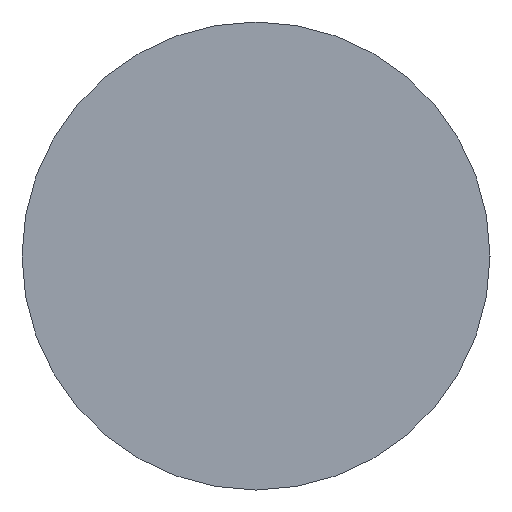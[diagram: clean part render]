
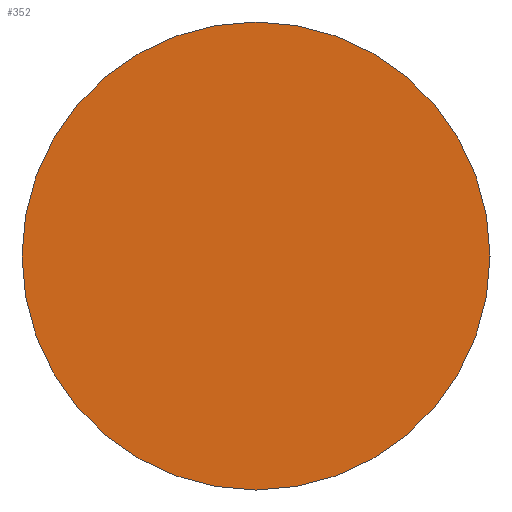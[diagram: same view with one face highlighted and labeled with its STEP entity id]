
A CAD part, left-side view. The second image highlights one B-rep face of the part: STEP entity #352.
In plain terms, the highlighted planar face has unit normal (-1, 0, 0).
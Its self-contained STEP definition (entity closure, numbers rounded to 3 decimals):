
#26 = EDGE_LOOP ( 'NONE', ( #127, #355 ) ) ;
#34 = VERTEX_POINT ( 'NONE', #178 ) ;
#48 = EDGE_CURVE ( 'NONE', #34, #351, #228, .T. ) ;
#72 = CARTESIAN_POINT ( 'NONE',  ( 0., 0., -25. ) ) ;
#80 = FACE_OUTER_BOUND ( 'NONE', #26, .T. ) ;
#81 = PLANE ( 'NONE',  #82 ) ;
#82 = AXIS2_PLACEMENT_3D ( 'NONE', #83, #84, #85 ) ;
#83 = CARTESIAN_POINT ( 'NONE',  ( 0., 0., 0. ) ) ;
#84 = DIRECTION ( 'NONE',  ( 1., 0., 0. ) ) ;
#85 = DIRECTION ( 'NONE',  ( 0., 0., -1. ) ) ;
#127 = ORIENTED_EDGE ( 'NONE', *, *, #48, .T. ) ;
#178 = CARTESIAN_POINT ( 'NONE',  ( 0., 0., 25. ) ) ;
#222 = CIRCLE ( 'NONE', #223, 25. ) ;
#223 = AXIS2_PLACEMENT_3D ( 'NONE', #224, #225, #226 ) ;
#224 = CARTESIAN_POINT ( 'NONE',  ( 0., 0., 0. ) ) ;
#225 = DIRECTION ( 'NONE',  ( -1., 0., 0. ) ) ;
#226 = DIRECTION ( 'NONE',  ( 0., 0., 1. ) ) ;
#228 = CIRCLE ( 'NONE', #229, 25. ) ;
#229 = AXIS2_PLACEMENT_3D ( 'NONE', #230, #231, #233 ) ;
#230 = CARTESIAN_POINT ( 'NONE',  ( 0., 0., 0. ) ) ;
#231 = DIRECTION ( 'NONE',  ( -1., 0., 0. ) ) ;
#233 = DIRECTION ( 'NONE',  ( 0., 0., 1. ) ) ;
#344 = EDGE_CURVE ( 'NONE', #351, #34, #222, .T. ) ;
#351 = VERTEX_POINT ( 'NONE', #72 ) ;
#352 = ADVANCED_FACE ( 'NONE', ( #80 ), #81, .F. ) ;
#355 = ORIENTED_EDGE ( 'NONE', *, *, #344, .T. ) ;
